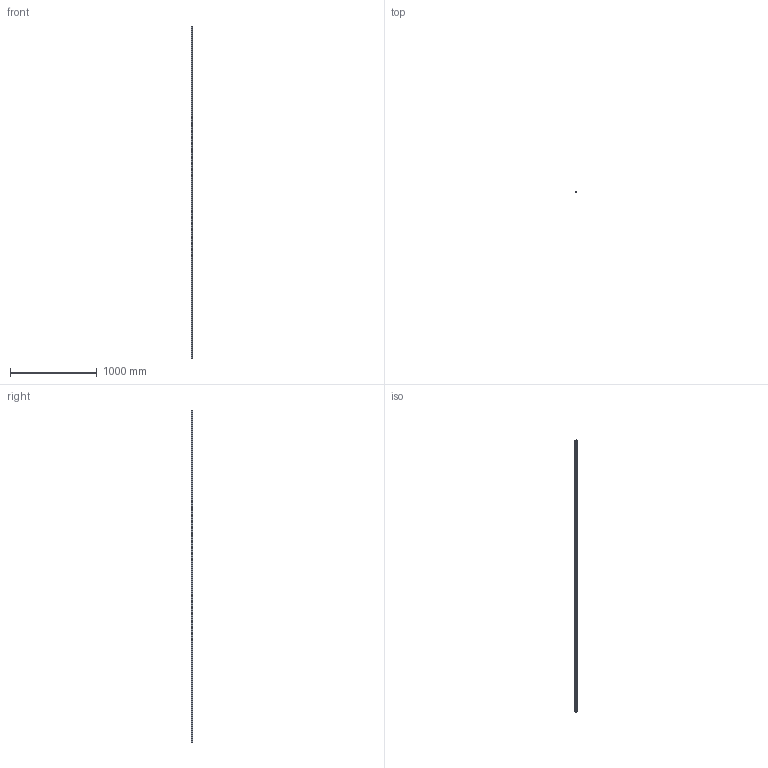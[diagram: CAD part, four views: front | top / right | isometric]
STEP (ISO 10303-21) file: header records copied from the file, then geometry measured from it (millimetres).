
FILE_DESCRIPTION (( 'STEP AP203' ), '1' );
FILE_NAME ('L1016.BL20-3820.step', '2019-06-12T11:58:42', ( '' ), ( '' ), 'SwSTEP 2.0', 'SolidWorks 2017', '' );
FILE_SCHEMA (( 'CONFIG_CONTROL_DESIGN' ));
Length unit declared in the file: millimetre
Products named in the file (1): L1016.BL20-3820
Bounding box: 20 x 16.3 x 3820 mm (x, y, z)
Volume: 1061932.7 mm3; surface area: 307059 mm2
Topology: 1 solids, 1 shells, 346 faces, 840 edges, 560 vertices
Faces by surface type: cylinder 260, plane 86
Entity records: 10757 total; most frequent: DIRECTION 2054, CARTESIAN_POINT 1747, ORIENTED_EDGE 1680, AXIS2_PLACEMENT_3D 867, EDGE_CURVE 840, VERTEX_POINT 560, EDGE_LOOP 538, CIRCLE 520
